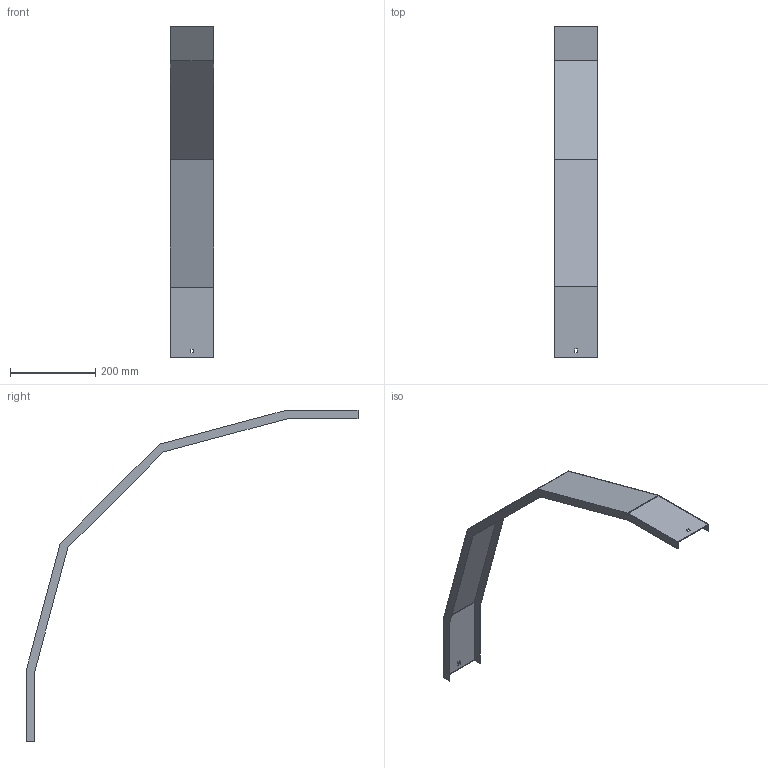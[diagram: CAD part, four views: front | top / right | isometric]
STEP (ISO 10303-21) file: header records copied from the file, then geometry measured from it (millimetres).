
FILE_DESCRIPTION (( 'STEP AP214' ), '1' );
FILE_NAME ('33N5J100.step', '2025-02-21T10:43:43', ( '' ), ( '' ), 'SwSTEP 2.0', 'SolidWorks 2023', '' );
FILE_SCHEMA (( 'AUTOMOTIVE_DESIGN' ));
Length unit declared in the file: millimetre
Products named in the file (1): 33N5J100
Bounding box: 103 x 779.96 x 779.96 mm (x, y, z)
Volume: 268318.9 mm3; surface area: 362031.2 mm2
Topology: 1 solids, 1 shells, 34 faces, 96 edges, 64 vertices
Faces by surface type: plane 34
Entity records: 1111 total; most frequent: CARTESIAN_POINT 195, ORIENTED_EDGE 192, DIRECTION 166, LINE 96, EDGE_CURVE 96, VECTOR 96, VERTEX_POINT 64, EDGE_LOOP 38
